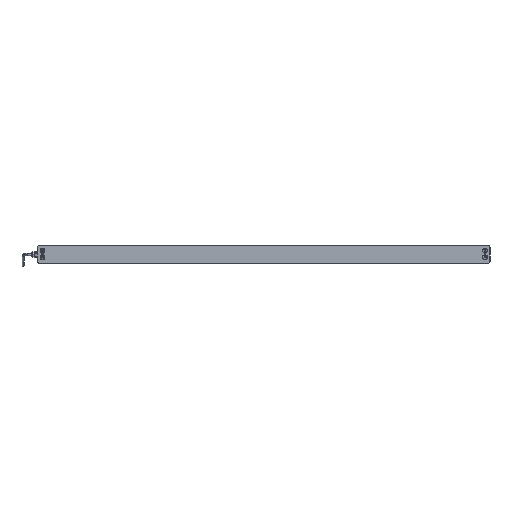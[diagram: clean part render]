
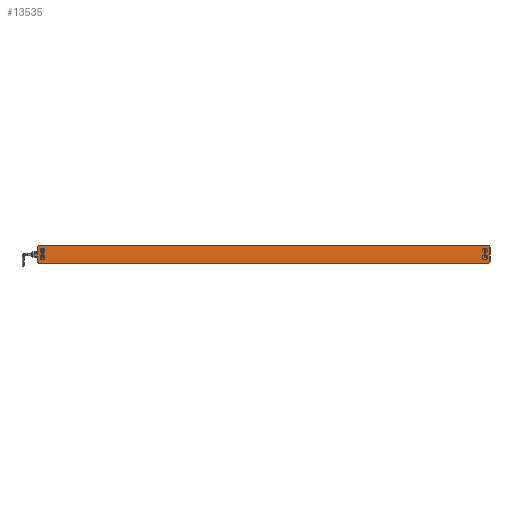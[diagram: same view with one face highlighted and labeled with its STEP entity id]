
A CAD part, left-side view. The second image highlights one B-rep face of the part: STEP entity #13535.
In plain terms, the highlighted planar face has unit normal (-1, 0, 0) as drawn and (0, 0, -1) by its records, which use the part's own axes.
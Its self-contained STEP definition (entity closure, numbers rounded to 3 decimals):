
#84 = ORIENTED_EDGE ( 'NONE', *, *, #6342, .F. ) ;
#250 = CARTESIAN_POINT ( 'NONE',  ( 506.3, 8.5, 0. ) ) ;
#478 = AXIS2_PLACEMENT_3D ( 'NONE', #20328, #10258, #18509 ) ;
#573 = VERTEX_POINT ( 'NONE', #17909 ) ;
#621 = DIRECTION ( 'NONE',  ( 0., 0., 1. ) ) ;
#629 = ORIENTED_EDGE ( 'NONE', *, *, #10996, .F. ) ;
#899 = DIRECTION ( 'NONE',  ( 0., 0., -1. ) ) ;
#1040 = ORIENTED_EDGE ( 'NONE', *, *, #20086, .F. ) ;
#1169 = FACE_OUTER_BOUND ( 'NONE', #14129, .T. ) ;
#1261 = ORIENTED_EDGE ( 'NONE', *, *, #18211, .F. ) ;
#1380 = EDGE_CURVE ( 'NONE', #7309, #23195, #19213, .T. ) ;
#1696 = CARTESIAN_POINT ( 'NONE',  ( -506.3, 8.5, 0. ) ) ;
#1712 = LINE ( 'NONE', #3185, #12611 ) ;
#1917 = AXIS2_PLACEMENT_3D ( 'NONE', #1696, #15734, #25391 ) ;
#2503 = VECTOR ( 'NONE', #16248, 1000. ) ;
#2858 = CIRCLE ( 'NONE', #19179, 4. ) ;
#2973 = AXIS2_PLACEMENT_3D ( 'NONE', #250, #12364, #5772 ) ;
#3001 = DIRECTION ( 'NONE',  ( -1., 0., 0. ) ) ;
#3185 = CARTESIAN_POINT ( 'NONE',  ( -514., 20., 0. ) ) ;
#3409 = DIRECTION ( 'NONE',  ( -1., 0., 0. ) ) ;
#3759 = VERTEX_POINT ( 'NONE', #9968 ) ;
#4467 = CARTESIAN_POINT ( 'NONE',  ( -511.9, -6.3, 0. ) ) ;
#4505 = DIRECTION ( 'NONE',  ( 0., 1., 0. ) ) ;
#4567 = DIRECTION ( 'NONE',  ( -1., 0., 0. ) ) ;
#4750 = CARTESIAN_POINT ( 'NONE',  ( 518., -16., 0. ) ) ;
#5041 = CIRCLE ( 'NONE', #7557, 5.6 ) ;
#5148 = EDGE_LOOP ( 'NONE', ( #12175, #1040 ) ) ;
#5300 = CARTESIAN_POINT ( 'NONE',  ( -518., -16., 0. ) ) ;
#5426 = AXIS2_PLACEMENT_3D ( 'NONE', #7900, #19705, #5815 ) ;
#5601 = VERTEX_POINT ( 'NONE', #7674 ) ;
#5772 = DIRECTION ( 'NONE',  ( -1., 0., 0. ) ) ;
#5815 = DIRECTION ( 'NONE',  ( -1., 0., 0. ) ) ;
#5999 = EDGE_LOOP ( 'NONE', ( #20768, #22623 ) ) ;
#6102 = VECTOR ( 'NONE', #4505, 1000. ) ;
#6266 = CIRCLE ( 'NONE', #9614, 4. ) ;
#6286 = CARTESIAN_POINT ( 'NONE',  ( -500.7, -6.3, 0. ) ) ;
#6342 = EDGE_CURVE ( 'NONE', #573, #18858, #20164, .T. ) ;
#6815 = CARTESIAN_POINT ( 'NONE',  ( 500.7, 8.5, 0. ) ) ;
#7206 = VERTEX_POINT ( 'NONE', #15764 ) ;
#7309 = VERTEX_POINT ( 'NONE', #4467 ) ;
#7419 = CARTESIAN_POINT ( 'NONE',  ( 506.3, -6.3, 0. ) ) ;
#7557 = AXIS2_PLACEMENT_3D ( 'NONE', #14007, #16377, #24312 ) ;
#7674 = CARTESIAN_POINT ( 'NONE',  ( -518., -16., 0. ) ) ;
#7676 = EDGE_CURVE ( 'NONE', #23646, #17390, #21760, .T. ) ;
#7900 = CARTESIAN_POINT ( 'NONE',  ( -506.3, -6.3, 0. ) ) ;
#8306 = DIRECTION ( 'NONE',  ( 0., 0., -1. ) ) ;
#8372 = AXIS2_PLACEMENT_3D ( 'NONE', #12443, #18313, #15968 ) ;
#8617 = EDGE_CURVE ( 'NONE', #22501, #16490, #6266, .T. ) ;
#8775 = EDGE_CURVE ( 'NONE', #23195, #7309, #15906, .T. ) ;
#8834 = DIRECTION ( 'NONE',  ( -1., 0., 0. ) ) ;
#8957 = EDGE_LOOP ( 'NONE', ( #19808, #24072 ) ) ;
#9110 = AXIS2_PLACEMENT_3D ( 'NONE', #11295, #21219, #3409 ) ;
#9573 = FACE_BOUND ( 'NONE', #21840, .T. ) ;
#9614 = AXIS2_PLACEMENT_3D ( 'NONE', #17147, #621, #4567 ) ;
#9968 = CARTESIAN_POINT ( 'NONE',  ( 500.7, -6.3, 0. ) ) ;
#10020 = AXIS2_PLACEMENT_3D ( 'NONE', #10506, #899, #24592 ) ;
#10258 = DIRECTION ( 'NONE',  ( 0., 0., 1. ) ) ;
#10506 = CARTESIAN_POINT ( 'NONE',  ( -506.3, -6.3, 0. ) ) ;
#10615 = CARTESIAN_POINT ( 'NONE',  ( -518., 16., 0. ) ) ;
#10889 = ORIENTED_EDGE ( 'NONE', *, *, #24616, .F. ) ;
#10960 = CIRCLE ( 'NONE', #2973, 5.6 ) ;
#10996 = EDGE_CURVE ( 'NONE', #23456, #3759, #19522, .T. ) ;
#11295 = CARTESIAN_POINT ( 'NONE',  ( 514., 16., 0. ) ) ;
#11589 = CARTESIAN_POINT ( 'NONE',  ( 514., 20., 0. ) ) ;
#12175 = ORIENTED_EDGE ( 'NONE', *, *, #21106, .F. ) ;
#12308 = EDGE_CURVE ( 'NONE', #17390, #23646, #25782, .T. ) ;
#12364 = DIRECTION ( 'NONE',  ( 0., 0., -1. ) ) ;
#12443 = CARTESIAN_POINT ( 'NONE',  ( -506.3, 8.5, 0. ) ) ;
#12611 = VECTOR ( 'NONE', #15879, 1000. ) ;
#13133 = PLANE ( 'NONE',  #9110 ) ;
#13170 = ORIENTED_EDGE ( 'NONE', *, *, #20421, .F. ) ;
#13535 = ADVANCED_FACE ( 'NONE', ( #19512, #9573, #21486, #17321, #1169 ), #13133, .T. ) ;
#13714 = DIRECTION ( 'NONE',  ( -1., 0., 0. ) ) ;
#13832 = DIRECTION ( 'NONE',  ( 0., -1., 0. ) ) ;
#14007 = CARTESIAN_POINT ( 'NONE',  ( 506.3, 8.5, 0. ) ) ;
#14129 = EDGE_LOOP ( 'NONE', ( #16673, #10889, #18923, #84, #1261, #19303, #24776, #21932 ) ) ;
#15245 = VECTOR ( 'NONE', #13832, 1000. ) ;
#15734 = DIRECTION ( 'NONE',  ( 0., 0., -1. ) ) ;
#15764 = CARTESIAN_POINT ( 'NONE',  ( 511.9, 8.5, 0. ) ) ;
#15879 = DIRECTION ( 'NONE',  ( -1., 0., 0. ) ) ;
#15906 = CIRCLE ( 'NONE', #5426, 5.6 ) ;
#15942 = VERTEX_POINT ( 'NONE', #11589 ) ;
#15968 = DIRECTION ( 'NONE',  ( -1., 0., 0. ) ) ;
#16206 = AXIS2_PLACEMENT_3D ( 'NONE', #16331, #8306, #24271 ) ;
#16248 = DIRECTION ( 'NONE',  ( 1., 0., 0. ) ) ;
#16331 = CARTESIAN_POINT ( 'NONE',  ( 506.3, -6.3, 0. ) ) ;
#16377 = DIRECTION ( 'NONE',  ( 0., 0., -1. ) ) ;
#16490 = VERTEX_POINT ( 'NONE', #10615 ) ;
#16554 = VERTEX_POINT ( 'NONE', #22732 ) ;
#16673 = ORIENTED_EDGE ( 'NONE', *, *, #24141, .F. ) ;
#16918 = DIRECTION ( 'NONE',  ( 0., 0., 1. ) ) ;
#17142 = CARTESIAN_POINT ( 'NONE',  ( -514., 20., 0. ) ) ;
#17147 = CARTESIAN_POINT ( 'NONE',  ( -514., 16., 0. ) ) ;
#17321 = FACE_BOUND ( 'NONE', #8957, .T. ) ;
#17390 = VERTEX_POINT ( 'NONE', #17962 ) ;
#17909 = CARTESIAN_POINT ( 'NONE',  ( -514., -20., 0. ) ) ;
#17962 = CARTESIAN_POINT ( 'NONE',  ( -511.9, 8.5, 0. ) ) ;
#18211 = EDGE_CURVE ( 'NONE', #5601, #573, #2858, .T. ) ;
#18313 = DIRECTION ( 'NONE',  ( 0., 0., -1. ) ) ;
#18509 = DIRECTION ( 'NONE',  ( 1., 0., 0. ) ) ;
#18858 = VERTEX_POINT ( 'NONE', #22622 ) ;
#18923 = ORIENTED_EDGE ( 'NONE', *, *, #20658, .F. ) ;
#19179 = AXIS2_PLACEMENT_3D ( 'NONE', #25306, #20997, #8834 ) ;
#19213 = CIRCLE ( 'NONE', #10020, 5.6 ) ;
#19303 = ORIENTED_EDGE ( 'NONE', *, *, #24548, .F. ) ;
#19462 = AXIS2_PLACEMENT_3D ( 'NONE', #21212, #16918, #3001 ) ;
#19512 = FACE_BOUND ( 'NONE', #5148, .T. ) ;
#19522 = CIRCLE ( 'NONE', #16206, 5.6 ) ;
#19633 = EDGE_CURVE ( 'NONE', #15942, #22501, #1712, .T. ) ;
#19705 = DIRECTION ( 'NONE',  ( 0., 0., -1. ) ) ;
#19808 = ORIENTED_EDGE ( 'NONE', *, *, #1380, .F. ) ;
#20086 = EDGE_CURVE ( 'NONE', #7206, #25007, #5041, .T. ) ;
#20164 = LINE ( 'NONE', #24324, #2503 ) ;
#20328 = CARTESIAN_POINT ( 'NONE',  ( 514., -16., 0. ) ) ;
#20421 = EDGE_CURVE ( 'NONE', #3759, #23456, #21797, .T. ) ;
#20526 = VERTEX_POINT ( 'NONE', #21817 ) ;
#20658 = EDGE_CURVE ( 'NONE', #18858, #20526, #21380, .T. ) ;
#20768 = ORIENTED_EDGE ( 'NONE', *, *, #12308, .F. ) ;
#20997 = DIRECTION ( 'NONE',  ( 0., 0., 1. ) ) ;
#21106 = EDGE_CURVE ( 'NONE', #25007, #7206, #10960, .T. ) ;
#21212 = CARTESIAN_POINT ( 'NONE',  ( 514., 16., 0. ) ) ;
#21219 = DIRECTION ( 'NONE',  ( 0., 0., -1. ) ) ;
#21380 = CIRCLE ( 'NONE', #478, 4. ) ;
#21486 = FACE_BOUND ( 'NONE', #5999, .T. ) ;
#21688 = DIRECTION ( 'NONE',  ( 0., 0., -1. ) ) ;
#21760 = CIRCLE ( 'NONE', #8372, 5.6 ) ;
#21797 = CIRCLE ( 'NONE', #23018, 5.6 ) ;
#21817 = CARTESIAN_POINT ( 'NONE',  ( 518., -16., 0. ) ) ;
#21840 = EDGE_LOOP ( 'NONE', ( #13170, #629 ) ) ;
#21932 = ORIENTED_EDGE ( 'NONE', *, *, #19633, .F. ) ;
#22501 = VERTEX_POINT ( 'NONE', #17142 ) ;
#22622 = CARTESIAN_POINT ( 'NONE',  ( 514., -20., 0. ) ) ;
#22623 = ORIENTED_EDGE ( 'NONE', *, *, #7676, .F. ) ;
#22732 = CARTESIAN_POINT ( 'NONE',  ( 518., 16., 0. ) ) ;
#23018 = AXIS2_PLACEMENT_3D ( 'NONE', #7419, #21688, #13714 ) ;
#23195 = VERTEX_POINT ( 'NONE', #6286 ) ;
#23215 = LINE ( 'NONE', #5300, #15245 ) ;
#23456 = VERTEX_POINT ( 'NONE', #23633 ) ;
#23633 = CARTESIAN_POINT ( 'NONE',  ( 511.9, -6.3, 0. ) ) ;
#23646 = VERTEX_POINT ( 'NONE', #25753 ) ;
#24072 = ORIENTED_EDGE ( 'NONE', *, *, #8775, .F. ) ;
#24141 = EDGE_CURVE ( 'NONE', #16554, #15942, #25305, .T. ) ;
#24271 = DIRECTION ( 'NONE',  ( -1., 0., 0. ) ) ;
#24312 = DIRECTION ( 'NONE',  ( -1., 0., 0. ) ) ;
#24324 = CARTESIAN_POINT ( 'NONE',  ( -514., -20., 0. ) ) ;
#24381 = LINE ( 'NONE', #4750, #6102 ) ;
#24548 = EDGE_CURVE ( 'NONE', #16490, #5601, #23215, .T. ) ;
#24592 = DIRECTION ( 'NONE',  ( -1., 0., 0. ) ) ;
#24616 = EDGE_CURVE ( 'NONE', #20526, #16554, #24381, .T. ) ;
#24776 = ORIENTED_EDGE ( 'NONE', *, *, #8617, .F. ) ;
#25007 = VERTEX_POINT ( 'NONE', #6815 ) ;
#25305 = CIRCLE ( 'NONE', #19462, 4. ) ;
#25306 = CARTESIAN_POINT ( 'NONE',  ( -514., -16., 0. ) ) ;
#25391 = DIRECTION ( 'NONE',  ( -1., 0., 0. ) ) ;
#25753 = CARTESIAN_POINT ( 'NONE',  ( -500.7, 8.5, 0. ) ) ;
#25782 = CIRCLE ( 'NONE', #1917, 5.6 ) ;
